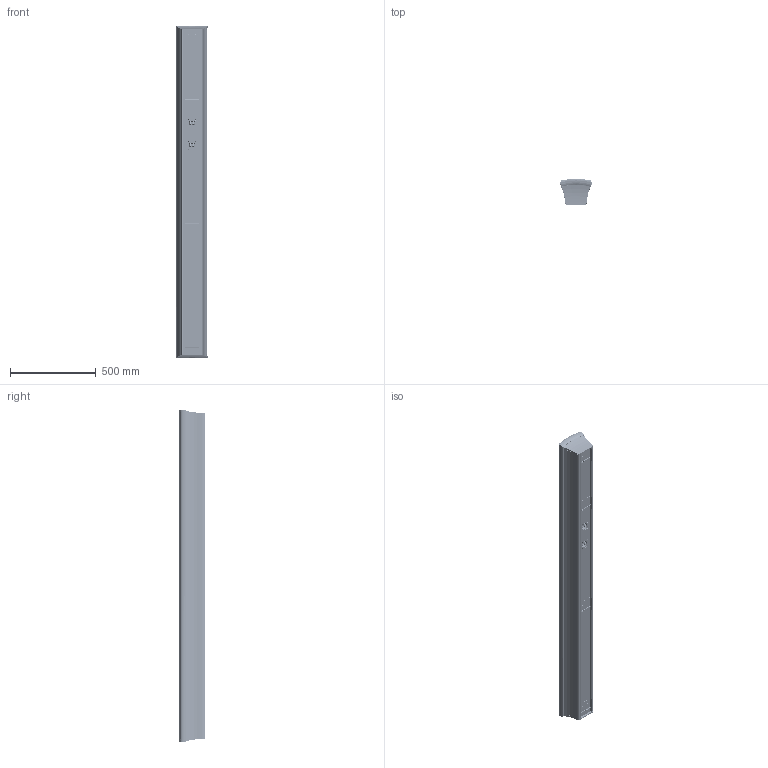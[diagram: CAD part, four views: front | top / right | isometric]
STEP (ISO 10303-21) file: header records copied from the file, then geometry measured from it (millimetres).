
FILE_DESCRIPTION (( 'STEP AP214' ), '1' );
FILE_NAME ('977502 Speaker Sage L75m.STEP', '2024-10-17T21:09:42', ( '' ), ( '' ), 'SwSTEP 2.0', 'SolidWorks 2024', '' );
FILE_SCHEMA (( 'AUTOMOTIVE_DESIGN' ));
Length unit declared in the file: inch
Products named in the file (42): 0.5mm Cu Shorting Sleeve 47.75mm ID x 47mm; 6 Woofer Cone & Surround EMS-Rev-B; Surround EMS-Rev-B; 300255 Sage 24.5 PEEK Subassembly; 401200; 100500 stiffener; 6 Woofer EMS-Rev-B1 (with Shorting Sleeve); 977502 Speaker Sage L75m; 6 Woofer Hard-Parts EMS-Rev-B1; 44mm x 10mm Spacer Plate; Motor Structure EMS-Rev-B1; 75mm Dust Cap EMS-Rev-B; 790300 Magnet NdFeB N42 0.090 x 0.188 x 1.950; 6 Woofer Cone EMS-Rev-B; 88mm Square x 58mm x 8mm Outer Top Plate; 100600 RevB spacer 24.5; 410700 RevC Panel Filler 75 Front; Color Dot; 501410 RevH Mid Bass Driver 6 Inch Sage Revised; Color Dot_Black. >; 110680 RevC Panel Backer Midbass Universal .187 Inch; Terminal Cup; Mirror410410 RevH Cap End Rear Onwall; 47mm x 12mm Main Neo Disc Magnet; L75 Front Side Bezel; 100500 RevC magplate; 22mm 8-SVC Aluminum Winding; 402700 RevA Block Glue 3 bar 24.5 inch Urethane; 347500 RevB Extrusion Rear Finished Onwall 75; 401400 RevF Faceplate; 6 Woofer IGES assembly June 24 08; 120mm Spider EMS-Rev-A4; 406500 RevD Bracket Onwall Speaker Portion; Terminal Post; 47.75mm x 12mm Inner Top Plate; L75 Fabric Grill; Voice Coil with 22mm Winding; 410410 RevH Cap End Rear Onwall; VC Former 49.55mm ID x 38mm; 161000 Terminal Cup 3 Inch OD Push Terminals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
Assembly tree (97 placements, depth 7):
  977502 Speaker Sage L75m
    347500 RevB Extrusion Rear Finished Onwall 75
    501410 RevH Mid Bass Driver 6 Inch Sage Revised  x4
      6 Woofer IGES assembly June 24 08
        6 Woofer EMS-Rev-B1 (with Shorting Sleeve)
          120mm Spider EMS-Rev-A4
          75mm Dust Cap EMS-Rev-B
          6 Woofer Hard-Parts EMS-Rev-B1
            401200
            Motor Structure EMS-Rev-B1
              84mm x 33mm Cup Yoke Rev-B1
              44mm x 10mm Spacer Plate
              47mm x 12mm Main Neo Disc Magnet
              47.75mm x 12mm Inner Top Plate
              88mm Square x 58mm x 8mm Outer Top Plate
              0.5mm Cu Shorting Sleeve 47.75mm ID x 47mm
          Voice Coil with 22mm Winding
            22mm 8-SVC Aluminum Winding
            VC Former 49.55mm ID x 38mm
          6 Woofer Cone & Surround EMS-Rev-B
            6 Woofer Cone EMS-Rev-B
            Surround EMS-Rev-B
    110680 RevC Panel Backer Midbass Universal .187 Inch  x4
    410410 RevH Cap End Rear Onwall
    Mirror410410 RevH Cap End Rear Onwall
    410610 RevC Bezel Cap Onwall-FS_Bottom  x2
    L75 Front Side Bezel  x2
    L75 Fabric Grill
    161000 Terminal Cup 3 Inch OD Push Terminals  x2
      Terminal Cup
      Terminal Post
      Color Dot
      Color Dot_Black. >
    406500 RevD Bracket Onwall Speaker Portion  x4
    300255 Sage 24.5 PEEK Subassembly  x2
      100500 RevC magplate
      100500 stiffener
      100600 RevB spacer 24.5
      402700 RevA Block Glue 3 bar 24.5 inch Urethane
      790300 Magnet NdFeB N42 0.090 x 0.188 x 1.950
      401400 RevF Faceplate
    410700 RevC Panel Filler 75 Front
Bounding box: 181.18 x 150.75 x 1932.11 mm (x, y, z)
Volume: 6944019.4 mm3; surface area: 5143290.2 mm2
Topology: 181 solids, 181 shells, 15760 faces, 40538 edges, 25082 vertices
Faces by surface type: plane 6670, bspline 4200, cylinder 3634, sphere 616, cone 408, torus 232
Entity records: 237924 total; most frequent: CARTESIAN_POINT 99532, ORIENTED_EDGE 31890, DIRECTION 22922, EDGE_CURVE 15945, VERTEX_POINT 10367, LINE 7684, VECTOR 7684, AXIS2_PLACEMENT_3D 7619
